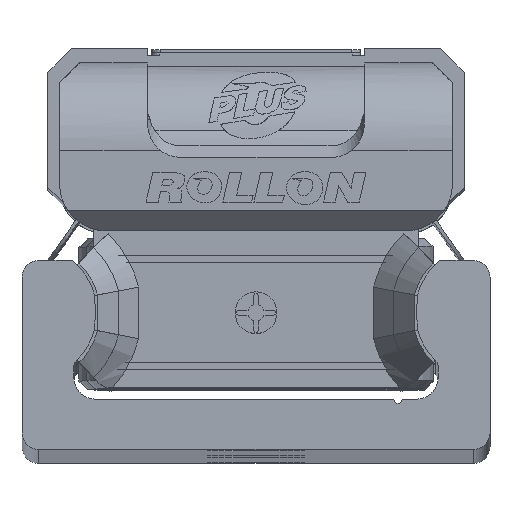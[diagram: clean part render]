
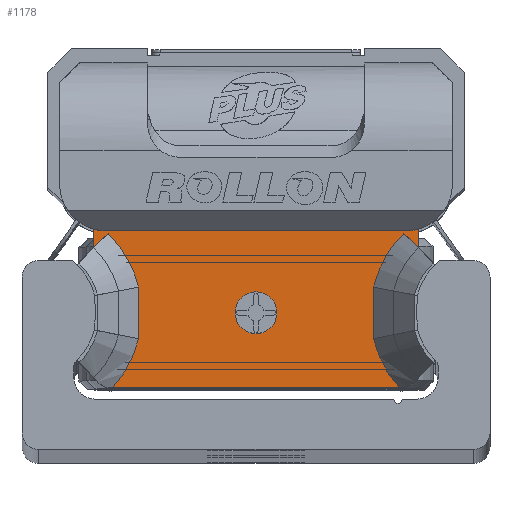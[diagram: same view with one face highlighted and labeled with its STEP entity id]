
A CAD part, top view. The second image highlights one B-rep face of the part: STEP entity #1178.
In plain terms, the highlighted planar face has unit normal (0, 0, 1) as drawn and (0, 0, -1) by its records, which use the part's own axes.
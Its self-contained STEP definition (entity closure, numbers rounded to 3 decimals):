
#1178 = ADVANCED_FACE( '', ( #2768, #2769 ), #2770, .F. );
#2768 = FACE_BOUND( '', #4909, .T. );
#2769 = FACE_OUTER_BOUND( '', #4910, .T. );
#2770 = PLANE( '', #4911 );
#4909 = EDGE_LOOP( '', ( #8127 ) );
#4910 = EDGE_LOOP( '', ( #8128, #8129, #8130, #8131, #8132, #8133, #8134, #8135, #8136, #8137, #8138, #8139, #8140, #8141 ) );
#4911 = AXIS2_PLACEMENT_3D( '', #8142, #8143, #8144 );
#8127 = ORIENTED_EDGE( '', *, *, #12945, .T. );
#8128 = ORIENTED_EDGE( '', *, *, #12946, .F. );
#8129 = ORIENTED_EDGE( '', *, *, #12947, .T. );
#8130 = ORIENTED_EDGE( '', *, *, #12948, .T. );
#8131 = ORIENTED_EDGE( '', *, *, #12949, .T. );
#8132 = ORIENTED_EDGE( '', *, *, #12269, .T. );
#8133 = ORIENTED_EDGE( '', *, *, #12950, .T. );
#8134 = ORIENTED_EDGE( '', *, *, #12951, .T. );
#8135 = ORIENTED_EDGE( '', *, *, #12952, .T. );
#8136 = ORIENTED_EDGE( '', *, *, #12953, .T. );
#8137 = ORIENTED_EDGE( '', *, *, #12954, .T. );
#8138 = ORIENTED_EDGE( '', *, *, #12955, .T. );
#8139 = ORIENTED_EDGE( '', *, *, #12956, .T. );
#8140 = ORIENTED_EDGE( '', *, *, #12957, .T. );
#8141 = ORIENTED_EDGE( '', *, *, #12958, .T. );
#8142 = CARTESIAN_POINT( '', ( 9.7, 4.89, -10.6 ) );
#8143 = DIRECTION( '', ( 0., 0., 1. ) );
#8144 = DIRECTION( '', ( 1., 0., 0. ) );
#12269 = EDGE_CURVE( '', #14639, #14640, #14641, .T. );
#12945 = EDGE_CURVE( '', #15747, #15747, #15748, .T. );
#12946 = EDGE_CURVE( '', #15749, #14577, #15750, .T. );
#12947 = EDGE_CURVE( '', #15749, #15751, #15752, .T. );
#12948 = EDGE_CURVE( '', #15751, #15753, #15754, .T. );
#12949 = EDGE_CURVE( '', #15753, #14639, #15755, .T. );
#12950 = EDGE_CURVE( '', #14640, #15756, #15757, .T. );
#12951 = EDGE_CURVE( '', #15756, #15758, #15759, .T. );
#12952 = EDGE_CURVE( '', #15758, #15760, #15761, .T. );
#12953 = EDGE_CURVE( '', #15760, #15762, #15763, .T. );
#12954 = EDGE_CURVE( '', #15762, #15764, #15765, .T. );
#12955 = EDGE_CURVE( '', #15764, #15766, #15767, .T. );
#12956 = EDGE_CURVE( '', #15766, #15768, #15769, .T. );
#12957 = EDGE_CURVE( '', #15768, #15770, #15771, .T. );
#12958 = EDGE_CURVE( '', #15770, #14577, #15772, .T. );
#14577 = VERTEX_POINT( '', #17935 );
#14639 = VERTEX_POINT( '', #18018 );
#14640 = VERTEX_POINT( '', #18019 );
#14641 = LINE( '', #18020, #18021 );
#15747 = VERTEX_POINT( '', #19638 );
#15748 = CIRCLE( '', #19639, 1.25 );
#15749 = VERTEX_POINT( '', #19640 );
#15750 = LINE( '', #19641, #19642 );
#15751 = VERTEX_POINT( '', #19643 );
#15752 = CIRCLE( '', #19644, 2.8 );
#15753 = VERTEX_POINT( '', #19645 );
#15754 = LINE( '', #19646, #19647 );
#15755 = CIRCLE( '', #19648, 2.8 );
#15756 = VERTEX_POINT( '', #19649 );
#15757 = LINE( '', #19650, #19651 );
#15758 = VERTEX_POINT( '', #19652 );
#15759 = B_SPLINE_CURVE_WITH_KNOTS( '', 2, ( #19653, #19654, #19655, #19656, #19657 ), .UNSPECIFIED., .F., .F., ( 3, 2, 3 ), ( 0., 0.5, 1. ), .UNSPECIFIED. );
#15760 = VERTEX_POINT( '', #19658 );
#15761 = B_SPLINE_CURVE_WITH_KNOTS( '', 2, ( #19659, #19660, #19661 ), .UNSPECIFIED., .F., .F., ( 3, 3 ), ( 0., 1. ), .UNSPECIFIED. );
#15762 = VERTEX_POINT( '', #19662 );
#15763 = B_SPLINE_CURVE_WITH_KNOTS( '', 2, ( #19663, #19664, #19665 ), .UNSPECIFIED., .F., .F., ( 3, 3 ), ( 0., 1. ), .UNSPECIFIED. );
#15764 = VERTEX_POINT( '', #19666 );
#15765 = LINE( '', #19667, #19668 );
#15766 = VERTEX_POINT( '', #19669 );
#15767 = B_SPLINE_CURVE_WITH_KNOTS( '', 2, ( #19670, #19671, #19672 ), .UNSPECIFIED., .F., .F., ( 3, 3 ), ( 0.1, 1. ), .UNSPECIFIED. );
#15768 = VERTEX_POINT( '', #19673 );
#15769 = B_SPLINE_CURVE_WITH_KNOTS( '', 2, ( #19674, #19675, #19676 ), .UNSPECIFIED., .F., .F., ( 3, 3 ), ( 0., 1. ), .UNSPECIFIED. );
#15770 = VERTEX_POINT( '', #19677 );
#15771 = B_SPLINE_CURVE_WITH_KNOTS( '', 2, ( #19678, #19679, #19680 ), .UNSPECIFIED., .F., .F., ( 3, 3 ), ( 0., 1. ), .UNSPECIFIED. );
#15772 = LINE( '', #19681, #19682 );
#17935 = CARTESIAN_POINT( '', ( -9.7, 3.494, -10.6 ) );
#18018 = CARTESIAN_POINT( '', ( 9.7, 4.612, -10.6 ) );
#18019 = CARTESIAN_POINT( '', ( 9.7, 3.497, -10.6 ) );
#18020 = CARTESIAN_POINT( '', ( 9.7, 4.89, -10.6 ) );
#18021 = VECTOR( '', #22356, 1000. );
#19638 = CARTESIAN_POINT( '', ( 1.25, -0.39, -10.6 ) );
#19639 = AXIS2_PLACEMENT_3D( '', #23226, #23227, #23228 );
#19640 = CARTESIAN_POINT( '', ( -9.7, 4.612, -10.6 ) );
#19641 = CARTESIAN_POINT( '', ( -9.7, 4.89, -10.6 ) );
#19642 = VECTOR( '', #23229, 1000. );
#19643 = CARTESIAN_POINT( '', ( -8.95, 4.51, -10.6 ) );
#19644 = AXIS2_PLACEMENT_3D( '', #23230, #23231, #23232 );
#19645 = CARTESIAN_POINT( '', ( 8.95, 4.51, -10.6 ) );
#19646 = CARTESIAN_POINT( '', ( 9.7, 4.51, -10.6 ) );
#19647 = VECTOR( '', #23233, 1000. );
#19648 = AXIS2_PLACEMENT_3D( '', #23234, #23235, #23236 );
#19649 = CARTESIAN_POINT( '', ( 8.853, 4.366, -10.6 ) );
#19650 = CARTESIAN_POINT( '', ( 9.7, 3.501, -10.6 ) );
#19651 = VECTOR( '', #23237, 1000. );
#19652 = CARTESIAN_POINT( '', ( 7.031, 1.144, -10.6 ) );
#19653 = CARTESIAN_POINT( '', ( 8.853, 4.366, -10.6 ) );
#19654 = CARTESIAN_POINT( '', ( 8.182, 3.708, -10.6 ) );
#19655 = CARTESIAN_POINT( '', ( 7.715, 2.883, -10.6 ) );
#19656 = CARTESIAN_POINT( '', ( 7.249, 2.058, -10.6 ) );
#19657 = CARTESIAN_POINT( '', ( 7.031, 1.144, -10.6 ) );
#19658 = CARTESIAN_POINT( '', ( 7.031, -1.944, -10.6 ) );
#19659 = CARTESIAN_POINT( '', ( 7.031, 1.144, -10.6 ) );
#19660 = CARTESIAN_POINT( '', ( 6.929, -0.4, -10.6 ) );
#19661 = CARTESIAN_POINT( '', ( 7.031, -1.944, -10.6 ) );
#19662 = CARTESIAN_POINT( '', ( 8.59, -4.893, -10.6 ) );
#19663 = CARTESIAN_POINT( '', ( 7.031, -1.944, -10.6 ) );
#19664 = CARTESIAN_POINT( '', ( 7.429, -3.615, -10.6 ) );
#19665 = CARTESIAN_POINT( '', ( 8.588, -4.89, -10.6 ) );
#19666 = CARTESIAN_POINT( '', ( -8.59, -4.893, -10.6 ) );
#19667 = CARTESIAN_POINT( '', ( 9.7, -4.89, -10.6 ) );
#19668 = VECTOR( '', #23238, 1000. );
#19669 = CARTESIAN_POINT( '', ( -7.031, -1.944, -10.6 ) );
#19670 = CARTESIAN_POINT( '', ( -8.587, -4.89, -10.6 ) );
#19671 = CARTESIAN_POINT( '', ( -7.432, -3.63, -10.6 ) );
#19672 = CARTESIAN_POINT( '', ( -7.031, -1.944, -10.6 ) );
#19673 = CARTESIAN_POINT( '', ( -7.031, 1.144, -10.6 ) );
#19674 = CARTESIAN_POINT( '', ( -7.031, -1.944, -10.6 ) );
#19675 = CARTESIAN_POINT( '', ( -6.929, -0.4, -10.6 ) );
#19676 = CARTESIAN_POINT( '', ( -7.031, 1.144, -10.6 ) );
#19677 = CARTESIAN_POINT( '', ( -8.853, 4.366, -10.6 ) );
#19678 = CARTESIAN_POINT( '', ( -7.031, 1.144, -10.6 ) );
#19679 = CARTESIAN_POINT( '', ( -7.477, 3.018, -10.6 ) );
#19680 = CARTESIAN_POINT( '', ( -8.853, 4.366, -10.6 ) );
#19681 = CARTESIAN_POINT( '', ( -8.853, 4.366, -10.6 ) );
#19682 = VECTOR( '', #23239, 1000. );
#22356 = DIRECTION( '', ( 0., -1., 0. ) );
#23226 = CARTESIAN_POINT( '', ( 0., -0.39, -10.6 ) );
#23227 = DIRECTION( '', ( 0., 0., 1. ) );
#23228 = DIRECTION( '', ( 1., 0., 0. ) );
#23229 = DIRECTION( '', ( 0., -1., 0. ) );
#23230 = CARTESIAN_POINT( '', ( -8.95, 7.31, -10.6 ) );
#23231 = DIRECTION( '', ( 0., 0., 1. ) );
#23232 = DIRECTION( '', ( 1., 0., 0. ) );
#23233 = DIRECTION( '', ( 1., 0., 0. ) );
#23234 = CARTESIAN_POINT( '', ( 8.95, 7.31, -10.6 ) );
#23235 = DIRECTION( '', ( 0., 0., 1. ) );
#23236 = DIRECTION( '', ( 1., 0., 0. ) );
#23237 = DIRECTION( '', ( -0.7, 0.714, 0. ) );
#23238 = DIRECTION( '', ( -1., 0., 0. ) );
#23239 = DIRECTION( '', ( -0.7, -0.714, 0. ) );
